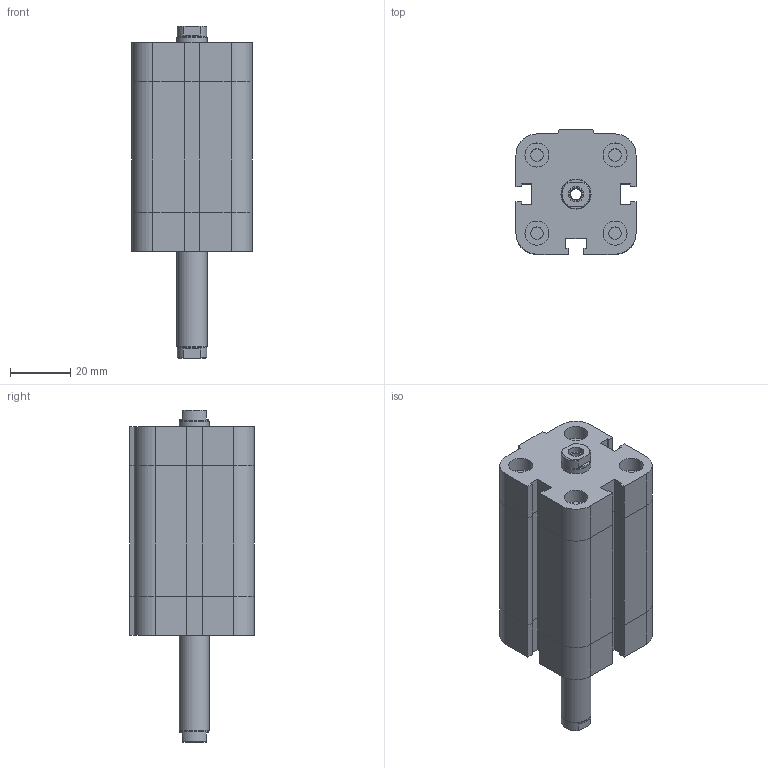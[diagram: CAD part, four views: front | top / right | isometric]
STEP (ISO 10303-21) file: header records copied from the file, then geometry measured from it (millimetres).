
FILE_DESCRIPTION((''),'2;1');
FILE_NAME('I:\Area Tecnica\Disegni\VARIE-3D\Componenti\EUROPE\15##_###_####_06_#\1581_25_0030_06_1.iam.stp','2009-04-20T15:09:10',(''),(''),'Autodesk Inventor 2009','Autodesk Inventor 2009','');
FILE_SCHEMA(('AUTOMOTIVE_DESIGN { 1 0 10303 214 1 1 1 1 }'));
Length unit declared in the file: millimetre
Products named in the file (3): 1581_25_0030_06_1; 1581_25_0030_03_1_C; 1561_25_0030_06_1_S
Assembly tree (2 placements, depth 2):
  1581_25_0030_06_1
    1581_25_0030_03_1_C
    1561_25_0030_06_1_S
Bounding box: 40 x 41.5 x 110.5 mm (x, y, z)
Volume: 100725 mm3; surface area: 25925.9 mm2
Topology: 2 solids, 2 shells, 175 faces, 382 edges, 233 vertices
Faces by surface type: plane 114, bspline 30, cylinder 25, cone 6
Full cylindrical faces by diameter (mm): 4.134 x5, 5.2 x1, 8 x4, 9.8 x2, 10 x1
Entity records: 4805 total; most frequent: CARTESIAN_POINT 1042, DIRECTION 712, ORIENTED_EDGE 680, EDGE_CURVE 340, VECTOR 252, LINE 252, AXIS2_PLACEMENT_3D 230, EDGE_LOOP 230
